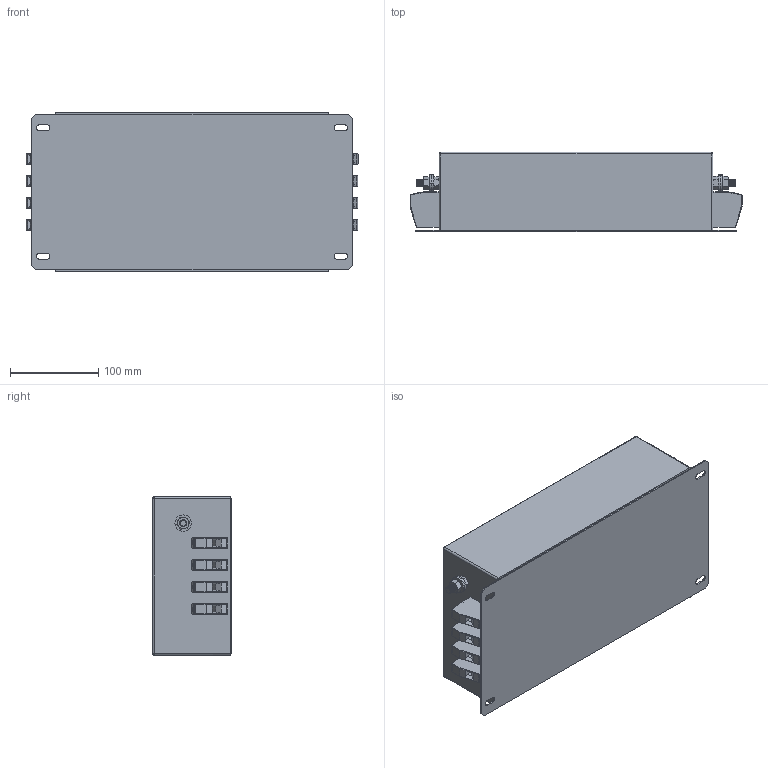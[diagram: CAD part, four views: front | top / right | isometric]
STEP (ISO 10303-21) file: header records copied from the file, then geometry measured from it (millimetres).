
FILE_DESCRIPTION (( 'STEP AP203' ), '1' );
FILE_NAME ('NF-4-60.STEP', '2013-12-18T11:40:01', ( 'Owner' ), ( 'EPA GmbH' ), 'SwSTEP 2.0', 'SolidWorks 2007', '' );
FILE_SCHEMA (( 'CONFIG_CONTROL_DESIGN' ));
Length unit declared in the file: millimetre
Products named in the file (7): Hex Nut Style 1_AM_B18.2.4.1M - Hex nut, Style 1,  M8 x 1.25 --D-N; HDFK-16; NF-4-60; DLC-F4; M8x20 Earth post; Hex Screw_AM_B18.6.7M - M8 x 1.25 x 20 Plain HHMS --20S; Flat Washer Narrow_AM_B18.22M - Plain washer, 8 mm, narrow
Assembly tree (15 placements, depth 3):
  NF-4-60
    HDFK-16  x8
    M8x20 Earth post  x2
      Hex Screw_AM_B18.6.7M - M8 x 1.25 x 20 Plain HHMS --20S
      Flat Washer Narrow_AM_B18.22M - Plain washer, 8 mm, narrow
      Hex Nut Style 1_AM_B18.2.4.1M - Hex nut, Style 1,  M8 x 1.25 --D-N
    DLC-F4
Bounding box: 377.01 x 90 x 180 mm (x, y, z)
Volume: 5067214.7 mm3; surface area: 336466.3 mm2
Topology: 17 solids, 17 shells, 954 faces, 2234 edges, 1360 vertices
Faces by surface type: plane 580, cone 200, cylinder 170, sphere 4
Entity records: 9961 total; most frequent: CARTESIAN_POINT 1704, DIRECTION 1610, ORIENTED_EDGE 1464, EDGE_CURVE 732, AXIS2_PLACEMENT_3D 600, VERTEX_POINT 454, VECTOR 410, LINE 410
